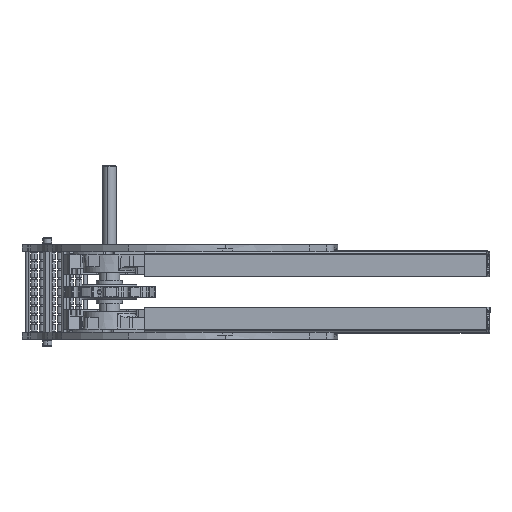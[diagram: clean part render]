
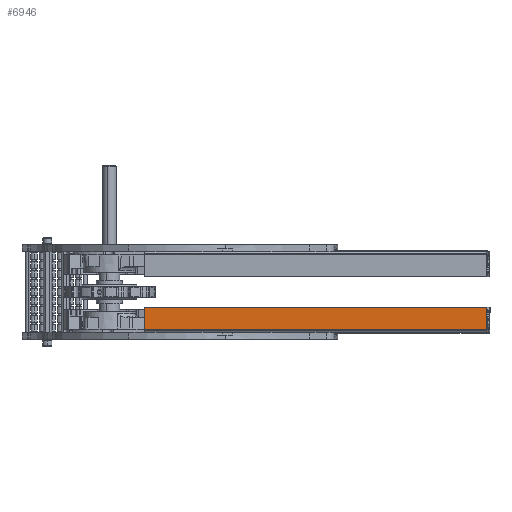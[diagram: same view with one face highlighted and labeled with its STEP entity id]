
A CAD part, front view. The second image highlights one B-rep face of the part: STEP entity #6946.
In plain terms, the highlighted planar face has unit normal (-0.035, -0.999, 0) as drawn and (0, 1, 0) by its records, which use the part's own axes.
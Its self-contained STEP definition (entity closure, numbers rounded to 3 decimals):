
#5586 = CARTESIAN_POINT ( 'NONE',  ( -54.8, 6.9, 0. ) ) ;
#5631 = CARTESIAN_POINT ( 'NONE',  ( -54.8, 6.9, -500. ) ) ;
#6792 = VERTEX_POINT ( 'NONE', #5586 ) ;
#6794 = VERTEX_POINT ( 'NONE', #5631 ) ;
#6946 = ADVANCED_FACE ( 'NONE', ( #13383 ), #7441, .T. ) ;
#6969 = EDGE_CURVE ( 'NONE', #6985, #6794, #7558, .T. ) ;
#6977 = EDGE_LOOP ( 'NONE', ( #6981, #6990, #6978, #7010 ) ) ;
#6978 = ORIENTED_EDGE ( 'NONE', *, *, #6969, .T. ) ;
#6980 = EDGE_CURVE ( 'NONE', #7008, #6792, #7512, .T. ) ;
#6981 = ORIENTED_EDGE ( 'NONE', *, *, #6980, .F. ) ;
#6984 = EDGE_CURVE ( 'NONE', #6985, #7008, #7506, .T. ) ;
#6985 = VERTEX_POINT ( 'NONE', #7381 ) ;
#6990 = ORIENTED_EDGE ( 'NONE', *, *, #6984, .F. ) ;
#7008 = VERTEX_POINT ( 'NONE', #7292 ) ;
#7010 = ORIENTED_EDGE ( 'NONE', *, *, #7044, .T. ) ;
#7044 = EDGE_CURVE ( 'NONE', #6794, #6792, #7951, .T. ) ;
#7133 = AXIS2_PLACEMENT_3D ( 'NONE', #7225, #7224, #7232 ) ;
#7224 = DIRECTION ( 'NONE',  ( 0., 1., 0. ) ) ;
#7225 = CARTESIAN_POINT ( 'NONE',  ( -54.8, 6.9, -500. ) ) ;
#7232 = DIRECTION ( 'NONE',  ( 0., 0., 1. ) ) ;
#7292 = CARTESIAN_POINT ( 'NONE',  ( -22.5, 6.9, 0. ) ) ;
#7381 = CARTESIAN_POINT ( 'NONE',  ( -22.5, 6.9, -500. ) ) ;
#7384 = DIRECTION ( 'NONE',  ( -1., 0., 0. ) ) ;
#7386 = VECTOR ( 'NONE', #7384, 1000. ) ;
#7387 = CARTESIAN_POINT ( 'NONE',  ( -54.8, 6.9, -500. ) ) ;
#7400 = DIRECTION ( 'NONE',  ( -1., 0., 0. ) ) ;
#7402 = VECTOR ( 'NONE', #7400, 1000. ) ;
#7441 = PLANE ( 'NONE',  #7133 ) ;
#7505 = CARTESIAN_POINT ( 'NONE',  ( -22.5, 6.9, -500. ) ) ;
#7506 = LINE ( 'NONE', #7505, #7604 ) ;
#7511 = CARTESIAN_POINT ( 'NONE',  ( -54.8, 6.9, 0. ) ) ;
#7512 = LINE ( 'NONE', #7511, #7402 ) ;
#7558 = LINE ( 'NONE', #7387, #7386 ) ;
#7603 = DIRECTION ( 'NONE',  ( 0., 0., 1. ) ) ;
#7604 = VECTOR ( 'NONE', #7603, 1000. ) ;
#7951 = LINE ( 'NONE', #7965, #7963 ) ;
#7961 = DIRECTION ( 'NONE',  ( 0., 0., 1. ) ) ;
#7963 = VECTOR ( 'NONE', #7961, 1000. ) ;
#7965 = CARTESIAN_POINT ( 'NONE',  ( -54.8, 6.9, -500. ) ) ;
#13383 = FACE_OUTER_BOUND ( 'NONE', #6977, .T. ) ;
